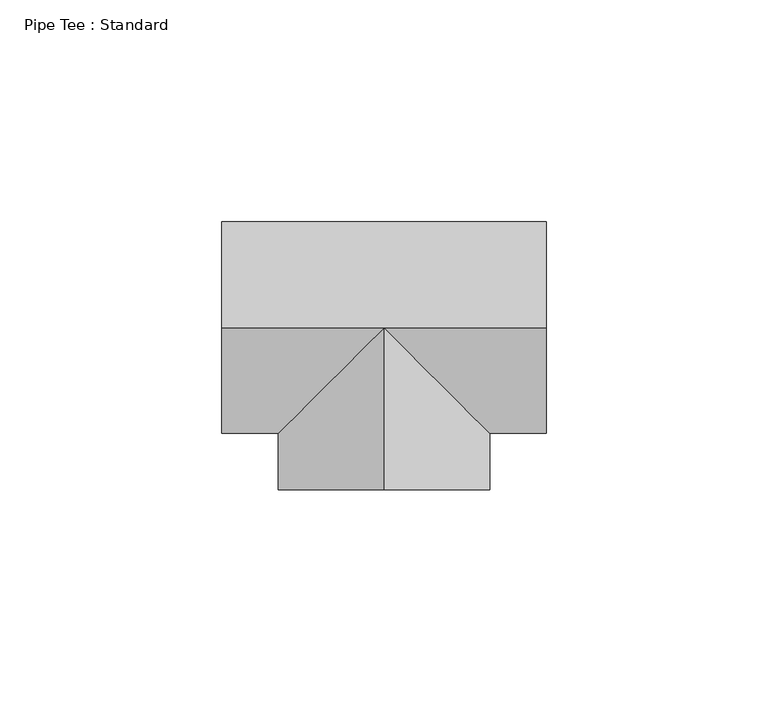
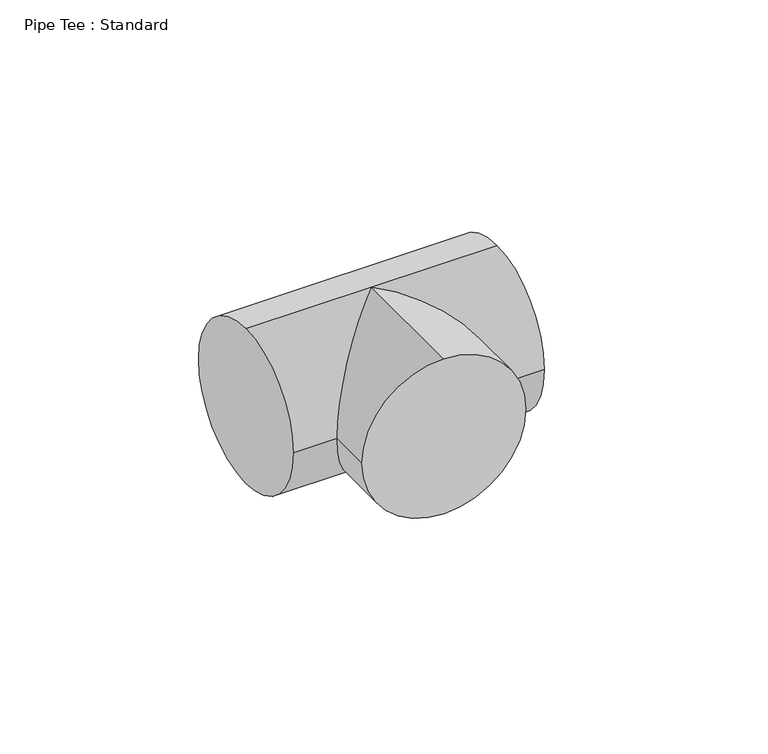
"""IFC4 building model written with IfcOpenShell, lengths in millimetres: pipe fitting geometry, Pipe Tee : Standard."""

from ifc_helpers import new_model, si_unit, frame, origin, place, context, project, spatial, circle_curve, ellipse_curve, source, transform, mapped, element, save
from ifc_brep_helpers import plane_surface, cylinder_surface, advanced_brep


def pipe_tee_standard_7127fd44(model_context):
    return source(origin(), model_context, "Body", "AdvancedBrep", [
        advanced_brep(
        [(-36.5125, 0.0, 23.8125), (-36.5125, 23.8125, 0.0), (-36.5125, 0.0, -23.8125), (-36.5125, -23.8125, 0.0), (36.5125, 0.0, 23.8125), (36.5125, -23.8125, 0.0), (36.5125, 0.0, -23.8125), (36.5125, 23.8125, 0.0), (0.0, 0.0, 23.8125), (0.0, 0.0, -23.8125), (-23.8125, -23.8125, 0.0), (23.8125, -23.8125, 0.0), (0.0, -36.5125, 23.8125), (-23.8125, -36.5125, 0.0), (0.0, -36.5125, -23.8125), (23.8125, -36.5125, 0.0)],
        [
            (0, 1, circle_curve(frame((-36.5125, 0.0, 0.0), z_axis=(-1.0, 0.0, 0.0), x_axis=(0.0, 1.0, 0.0)), 23.8125)),
            (1, 2, circle_curve(frame((-36.5125, 0.0, 0.0), z_axis=(-1.0, 0.0, 0.0), x_axis=(0.0, 1.0, 0.0)), 23.8125)),
            (2, 3, circle_curve(frame((-36.5125, 0.0, 0.0), z_axis=(-1.0, 0.0, 0.0), x_axis=(0.0, 1.0, 0.0)), 23.8125)),
            (3, 0, circle_curve(frame((-36.5125, 0.0, 0.0), z_axis=(-1.0, 0.0, 0.0), x_axis=(0.0, 1.0, 0.0)), 23.8125)),
            (4, 5, circle_curve(frame((36.5125, 0.0, 0.0), z_axis=(1.0, 0.0, 0.0), x_axis=(0.0, 1.0, 0.0)), 23.8125)),
            (5, 6, circle_curve(frame((36.5125, 0.0, 0.0), z_axis=(1.0, 0.0, 0.0), x_axis=(0.0, 1.0, 0.0)), 23.8125)),
            (6, 7, circle_curve(frame((36.5125, 0.0, 0.0), z_axis=(1.0, 0.0, 0.0), x_axis=(0.0, 1.0, 0.0)), 23.8125)),
            (7, 4, circle_curve(frame((36.5125, 0.0, 0.0), z_axis=(1.0, 0.0, 0.0), x_axis=(0.0, 1.0, 0.0)), 23.8125)),
            (0, 8),
            (8, 4),
            (7, 1),
            (6, 9),
            (9, 2),
            (9, 10, ellipse_curve(frame((0.0, 0.0, 0.0), z_axis=(-0.707106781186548, 0.7071067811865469, 0.0), x_axis=(-0.7071067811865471, -0.7071067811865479, 0.0)), 33.6759605, 23.8125)),
            (10, 3),
            (5, 11),
            (11, 9, ellipse_curve(frame((0.0, 0.0, 0.0), z_axis=(0.7071067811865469, 0.7071067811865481, 0.0), x_axis=(-0.7071067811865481, 0.7071067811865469, 0.0)), 33.6759605, 23.8125)),
            (10, 8, ellipse_curve(frame((0.0, 0.0, 0.0), z_axis=(-0.707106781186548, 0.7071067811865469, 0.0), x_axis=(-0.7071067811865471, -0.7071067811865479, 0.0)), 33.6759605, 23.8125)),
            (8, 11, ellipse_curve(frame((0.0, 0.0, 0.0), z_axis=(0.7071067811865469, 0.7071067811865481, 0.0), x_axis=(-0.7071067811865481, 0.7071067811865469, 0.0)), 33.6759605, 23.8125)),
            (12, 13, circle_curve(frame((0.0, -36.5125, 0.0), z_axis=(0.0, -1.0, 0.0), x_axis=(1.0, 0.0, 0.0)), 23.8125)),
            (13, 14, circle_curve(frame((0.0, -36.5125, 0.0), z_axis=(0.0, -1.0, 0.0), x_axis=(1.0, 0.0, 0.0)), 23.8125)),
            (14, 15, circle_curve(frame((0.0, -36.5125, 0.0), z_axis=(0.0, -1.0, 0.0), x_axis=(1.0, 0.0, 0.0)), 23.8125)),
            (15, 12, circle_curve(frame((0.0, -36.5125, 0.0), z_axis=(0.0, -1.0, 0.0), x_axis=(1.0, 0.0, 0.0)), 23.8125)),
            (15, 11),
            (8, 12),
            (14, 9),
            (13, 10),
        ],
        [
            plane_surface(frame((-36.5125, 0.0, 0.0), z_axis=(-1.0, 0.0, 0.0), x_axis=(0.0, 0.0, 1.0))),
            plane_surface(frame((36.5125, 0.0, 0.0), z_axis=(1.0, 0.0, 0.0), x_axis=(0.0, 0.0, 1.0))),
            cylinder_surface(frame((-36.5125, 0.0, 0.0), z_axis=(-1.0, 0.0, 0.0), x_axis=(0.0, 1.0, 0.0)), 23.8125),
            plane_surface(frame((0.0, -36.5125, 0.0), z_axis=(0.0, -1.0, 0.0), x_axis=(0.0, 0.0, 1.0))),
            cylinder_surface(frame((0.0, 0.0, 0.0), z_axis=(0.0, 1.0, 0.0), x_axis=(1.0, 0.0, 0.0)), 23.8125),
        ],
        [
            (0, [[1, 2, 3, 4]]),
            (1, [[5, 6, 7, 8]]),
            (2, [[-1, 9, 10, -8, 11]]),
            (2, [[-2, -11, -7, 12, 13]]),
            (2, [[-3, -13, 14, 15]]),
            (2, [[-6, 16, 17, -12]]),
            (2, [[-4, -15, 18, -9]]),
            (2, [[-5, -10, 19, -16]]),
            (3, [[20, 21, 22, 23]]),
            (4, [[-23, 24, -19, 25]]),
            (4, [[-22, 26, -17, -24]]),
            (4, [[-21, 27, -14, -26]]),
            (4, [[-20, -25, -18, -27]]),
        ],
    ),
        advanced_brep(
        [(-36.5125, 0.0, 23.8125), (-36.5125, 23.8125, 0.0), (-36.5125, 0.0, -23.8125), (-36.5125, -23.8125, 0.0), (36.5125, 0.0, 23.8125), (36.5125, -23.8125, 0.0), (36.5125, 0.0, -23.8125), (36.5125, 23.8125, 0.0), (0.0, 0.0, 23.8125), (0.0, 0.0, -23.8125), (-23.8125, -23.8125, 0.0), (23.8125, -23.8125, 0.0), (0.0, -36.5125, 23.8125), (-23.8125, -36.5125, 0.0), (0.0, -36.5125, -23.8125), (23.8125, -36.5125, 0.0)],
        [
            (0, 1, circle_curve(frame((-36.5125, 0.0, 0.0), z_axis=(-1.0, 0.0, 0.0), x_axis=(0.0, 1.0, 0.0)), 23.8125)),
            (1, 2, circle_curve(frame((-36.5125, 0.0, 0.0), z_axis=(-1.0, 0.0, 0.0), x_axis=(0.0, 1.0, 0.0)), 23.8125)),
            (2, 3, circle_curve(frame((-36.5125, 0.0, 0.0), z_axis=(-1.0, 0.0, 0.0), x_axis=(0.0, 1.0, 0.0)), 23.8125)),
            (3, 0, circle_curve(frame((-36.5125, 0.0, 0.0), z_axis=(-1.0, 0.0, 0.0), x_axis=(0.0, 1.0, 0.0)), 23.8125)),
            (4, 5, circle_curve(frame((36.5125, 0.0, 0.0), z_axis=(1.0, 0.0, 0.0), x_axis=(0.0, 1.0, 0.0)), 23.8125)),
            (5, 6, circle_curve(frame((36.5125, 0.0, 0.0), z_axis=(1.0, 0.0, 0.0), x_axis=(0.0, 1.0, 0.0)), 23.8125)),
            (6, 7, circle_curve(frame((36.5125, 0.0, 0.0), z_axis=(1.0, 0.0, 0.0), x_axis=(0.0, 1.0, 0.0)), 23.8125)),
            (7, 4, circle_curve(frame((36.5125, 0.0, 0.0), z_axis=(1.0, 0.0, 0.0), x_axis=(0.0, 1.0, 0.0)), 23.8125)),
            (0, 8),
            (8, 4),
            (7, 1),
            (6, 9),
            (9, 2),
            (9, 10, ellipse_curve(frame((0.0, 0.0, 0.0), z_axis=(-0.707106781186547, 0.7071067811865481, 0.0), x_axis=(-0.707106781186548, -0.707106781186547, 0.0)), 33.6759605, 23.8125)),
            (10, 3),
            (5, 11),
            (11, 9, ellipse_curve(frame((0.0, 0.0, 0.0), z_axis=(0.707106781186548, 0.7071067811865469, 0.0), x_axis=(-0.707106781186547, 0.707106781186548, 0.0)), 33.6759605, 23.8125)),
            (10, 8, ellipse_curve(frame((0.0, 0.0, 0.0), z_axis=(-0.707106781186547, 0.7071067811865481, 0.0), x_axis=(-0.707106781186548, -0.707106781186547, 0.0)), 33.6759605, 23.8125)),
            (8, 11, ellipse_curve(frame((0.0, 0.0, 0.0), z_axis=(0.707106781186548, 0.7071067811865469, 0.0), x_axis=(-0.707106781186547, 0.707106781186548, 0.0)), 33.6759605, 23.8125)),
            (12, 13, circle_curve(frame((0.0, -36.5125, 0.0), z_axis=(0.0, -1.0, 0.0), x_axis=(1.0, 0.0, 0.0)), 23.8125)),
            (13, 14, circle_curve(frame((0.0, -36.5125, 0.0), z_axis=(0.0, -1.0, 0.0), x_axis=(1.0, 0.0, 0.0)), 23.8125)),
            (14, 15, circle_curve(frame((0.0, -36.5125, 0.0), z_axis=(0.0, -1.0, 0.0), x_axis=(1.0, 0.0, 0.0)), 23.8125)),
            (15, 12, circle_curve(frame((0.0, -36.5125, 0.0), z_axis=(0.0, -1.0, 0.0), x_axis=(1.0, 0.0, 0.0)), 23.8125)),
            (15, 11),
            (8, 12),
            (14, 9),
            (13, 10),
        ],
        [
            plane_surface(frame((-36.5125, 0.0, 0.0), z_axis=(-1.0, 0.0, 0.0), x_axis=(0.0, 0.0, 1.0))),
            plane_surface(frame((36.5125, 0.0, 0.0), z_axis=(1.0, 0.0, 0.0), x_axis=(0.0, 0.0, 1.0))),
            cylinder_surface(frame((-36.5125, 0.0, 0.0), z_axis=(-1.0, 0.0, 0.0), x_axis=(0.0, 1.0, 0.0)), 23.8125),
            plane_surface(frame((0.0, -36.5125, 0.0), z_axis=(0.0, -1.0, 0.0), x_axis=(0.0, 0.0, 1.0))),
            cylinder_surface(frame((0.0, 0.0, 0.0), z_axis=(0.0, 1.0, 0.0), x_axis=(1.0, 0.0, 0.0)), 23.8125),
        ],
        [
            (0, [[1, 2, 3, 4]]),
            (1, [[5, 6, 7, 8]]),
            (2, [[-1, 9, 10, -8, 11]]),
            (2, [[-2, -11, -7, 12, 13]]),
            (2, [[-3, -13, 14, 15]]),
            (2, [[-6, 16, 17, -12]]),
            (2, [[-4, -15, 18, -9]]),
            (2, [[-5, -10, 19, -16]]),
            (3, [[20, 21, 22, 23]]),
            (4, [[-23, 24, -19, 25]]),
            (4, [[-22, 26, -17, -24]]),
            (4, [[-21, 27, -14, -26]]),
            (4, [[-20, -25, -18, -27]]),
        ],
    ),
    ])


if __name__ == "__main__":
    model = new_model("IFC4")
    model_context = context("Model", 3, world=origin())
    ifc_project = project(units=[si_unit("LENGTHUNIT", "METRE", prefix="MILLI")], contexts=[model_context])
    site = spatial("IfcSite", under=ifc_project)
    building = spatial("IfcBuilding", under=site)
    placement = place(None, origin())
    pipe_tee_standard_shape = pipe_tee_standard_7127fd44(model_context)
    element("IfcPipeFitting", 1, ObjectType="Pipe Tee : Standard", at=placement, inside=building, context=model_context, shape_type="MappedRepresentation", body=[
        mapped(pipe_tee_standard_shape, transform((0.0, 0.0, 0.0), x_axis=(1.0, 0.0, 0.0), y_axis=(0.0, 1.0, 0.0), z_axis=(0.0, 0.0, 1.0))),
    ])
    save(model, "model.ifc")
